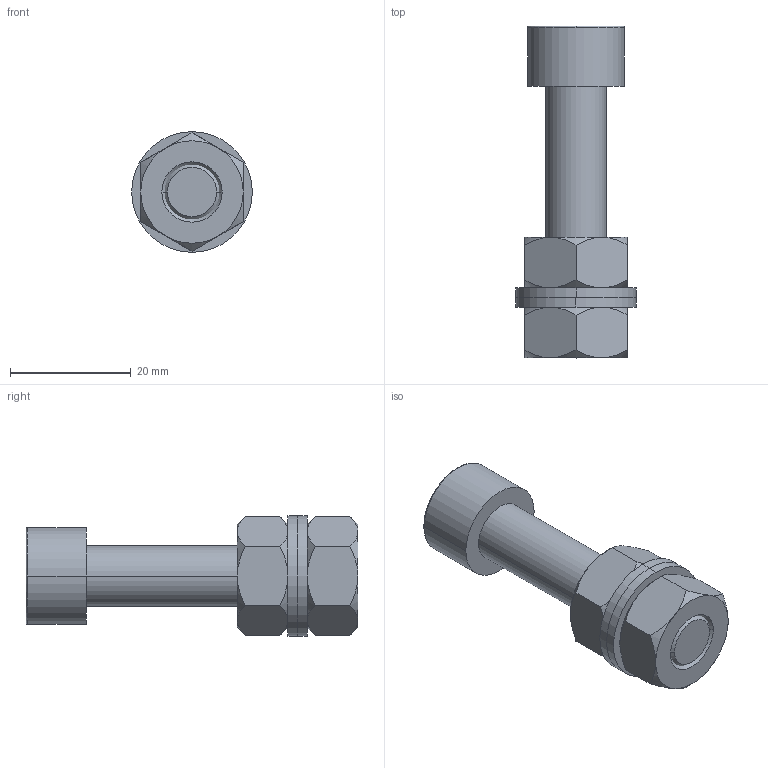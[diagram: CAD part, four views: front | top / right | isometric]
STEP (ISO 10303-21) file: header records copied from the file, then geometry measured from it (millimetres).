
FILE_DESCRIPTION( ( '' ), '1' );
FILE_NAME( '//partserver001.servicenet/client_exchange/iodir/jobs/output/wkb16461802_no3/STEP/e21208_2_03.stp', '2009-05-27T08:45:47', ( '' ), ( '' ), ' ', ' ', ' ' );
FILE_SCHEMA( ( 'CONFIG_CONTROL_DESIGN' ) );
Length unit declared in the file: millimetre
Products named in the file (5): 1; 2; 3; 4; 5
Bounding box: 20 x 55 x 20 mm (x, y, z)
Volume: 9049.4 mm3; surface area: 5817.7 mm2
Topology: 5 solids, 5 shells, 82 faces, 177 edges, 107 vertices
Faces by surface type: cone 34, plane 30, cylinder 16, torus 2
Entity records: 2398 total; most frequent: CARTESIAN_POINT 467, DIRECTION 376, ORIENTED_EDGE 354, EDGE_CURVE 177, AXIS2_PLACEMENT_3D 160, VERTEX_POINT 107, EDGE_LOOP 92, ADVANCED_FACE 82
